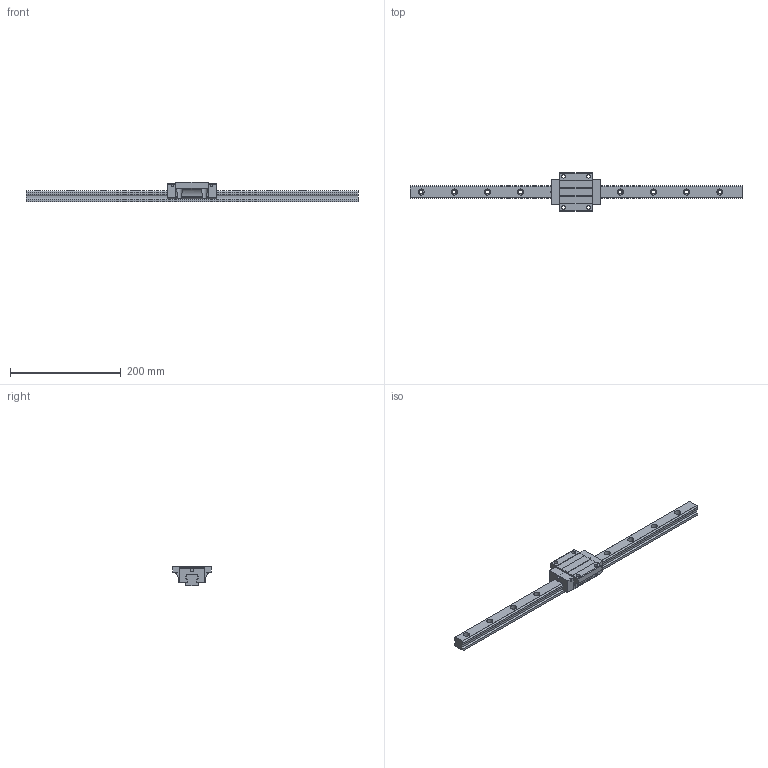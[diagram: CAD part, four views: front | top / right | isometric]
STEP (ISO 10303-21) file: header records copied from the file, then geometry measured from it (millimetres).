
FILE_DESCRIPTION (( 'STEP AP203' ), '1' );
FILE_NAME ('TRH25FN-ZN.STEP', '2024-05-14T07:22:22', ( '' ), ( '' ), 'SwSTEP 2.0', 'SolidWorks 2022', '' );
FILE_SCHEMA (( 'CONFIG_CONTROL_DESIGN' ));
Length unit declared in the file: millimetre
Products named in the file (1): TRH25FN-ZN
Bounding box: 600 x 70 x 36 mm (x, y, z)
Volume: 341799.4 mm3; surface area: 81872.2 mm2
Topology: 2 solids, 2 shells, 230 faces, 622 edges, 408 vertices
Faces by surface type: cylinder 130, plane 96, sphere 4
Entity records: 7853 total; most frequent: CARTESIAN_POINT 1797, DIRECTION 1276, ORIENTED_EDGE 1236, EDGE_CURVE 618, AXIS2_PLACEMENT_3D 459, VERTEX_POINT 408, LINE 358, VECTOR 358
